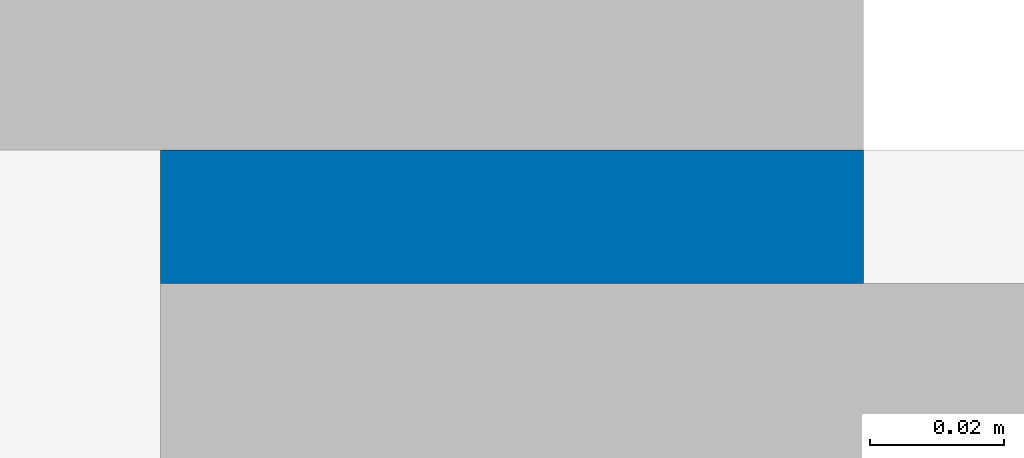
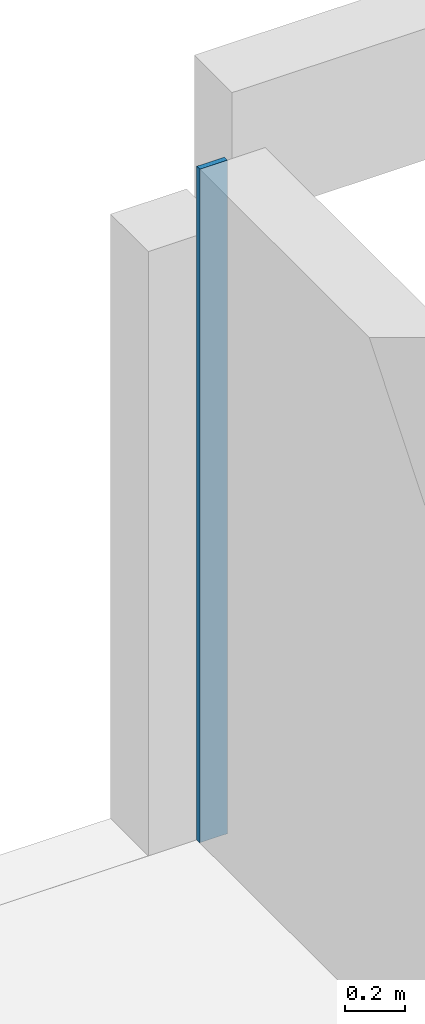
# One storey, part 6 of 12: 1 wall.
"""IFC2X3 building model written with IfcOpenShell, lengths in millimetres."""

from ifc_helpers import new_model, entity, si_unit, converted_unit, derived_unit, direction, frame, frame_2d, origin, place, context, subcontext, project, spatial, rectangle, extrude, material, layer, layer_set, layer_usage, type_object, element, save


model = new_model("IFC2X3")

# Units and contexts
model_context = context("Model", 3, precision=0.01, world=origin(), true_north=direction((6.12303176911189e-17, 1.0)))
body_context = subcontext(model_context, "Body", "Model", "MODEL_VIEW")
ifc_project = project(units=[si_unit("LENGTHUNIT", "METRE", prefix="MILLI"), si_unit("AREAUNIT", "SQUARE_METRE"), si_unit("VOLUMEUNIT", "CUBIC_METRE"), converted_unit("PLANEANGLEUNIT", "DEGREE", entity("IfcRatioMeasure", 0.0174532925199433), si_unit("PLANEANGLEUNIT", "RADIAN"), dimensions=[0, 0, 0, 0, 0, 0, 0]), si_unit("MASSUNIT", "GRAM", prefix="KILO"), derived_unit("MASSDENSITYUNIT", [(si_unit("MASSUNIT", "GRAM", prefix="KILO"), 1), (si_unit("LENGTHUNIT", "METRE"), -3)]), si_unit("TIMEUNIT", "SECOND"), si_unit("FREQUENCYUNIT", "HERTZ"), si_unit("THERMODYNAMICTEMPERATUREUNIT", "DEGREE_CELSIUS"), derived_unit("THERMALTRANSMITTANCEUNIT", [(si_unit("MASSUNIT", "GRAM", prefix="KILO"), 1), (si_unit("THERMODYNAMICTEMPERATUREUNIT", "KELVIN"), -1), (si_unit("TIMEUNIT", "SECOND"), -3)]), derived_unit("VOLUMETRICFLOWRATEUNIT", [(si_unit("LENGTHUNIT", "METRE"), 3), (si_unit("TIMEUNIT", "SECOND"), -1)]), si_unit("ELECTRICCURRENTUNIT", "AMPERE"), si_unit("ELECTRICVOLTAGEUNIT", "VOLT"), si_unit("POWERUNIT", "WATT"), si_unit("FORCEUNIT", "NEWTON", prefix="KILO"), si_unit("ILLUMINANCEUNIT", "LUX"), si_unit("LUMINOUSFLUXUNIT", "LUMEN"), si_unit("LUMINOUSINTENSITYUNIT", "CANDELA"), derived_unit("USERDEFINED", [(si_unit("MASSUNIT", "GRAM", prefix="KILO"), -1), (si_unit("LENGTHUNIT", "METRE"), -2), (si_unit("TIMEUNIT", "SECOND"), 3), (si_unit("LUMINOUSFLUXUNIT", "LUMEN"), 1)]), derived_unit("LINEARVELOCITYUNIT", [(si_unit("LENGTHUNIT", "METRE"), 1), (si_unit("TIMEUNIT", "SECOND"), -1)]), si_unit("PRESSUREUNIT", "PASCAL"), derived_unit("USERDEFINED", [(si_unit("LENGTHUNIT", "METRE"), -2), (si_unit("MASSUNIT", "GRAM", prefix="KILO"), 1), (si_unit("TIMEUNIT", "SECOND"), -2)])], contexts=[model_context])

# Site, building, storey
site_placement = place(None, origin())
site = spatial("IfcSite", under=ifc_project, at=site_placement, Name="Default", CompositionType="ELEMENT")
building_placement = place(site_placement, origin())
building = spatial("IfcBuilding", under=site, at=building_placement, Name="niet gebruiken", CompositionType="ELEMENT")
storey_placement = place(building_placement, frame((0.0, 0.0, 6660.0)))
storey = spatial("IfcBuildingStorey", under=building, at=storey_placement, Name="02 tweede verdieping", CompositionType="ELEMENT", Elevation=6660.00000000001)

# Wall
ifc_material = material(Name="NLRS_f2_beton ihwg")
ifc_layer = layer(ifc_material, 105.0)
ifc_layer_set = layer_set([ifc_layer], Name="Basic Wall:NLRS_22.21_WA_beton ihwg d=105_gen")
ifc_layer_usage = layer_usage(ifc_layer_set, "AXIS2", "NEGATIVE", 52.5)
wall_type = type_object("IfcWallType", Name="Basic Wall:NLRS_22.21_WA_beton ihwg d=105_gen", PredefinedType="STANDARD", material=ifc_layer_set)
wall_placement = place(storey_placement, frame((59327.4999999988, 52986.0, -90.0), z_axis=(0.0, 0.0, 1.0), x_axis=(0.0, 1.0, 0.0)))
element("IfcWallStandardCase", 1, at=wall_placement, inside=storey, type_object=wall_type, material=ifc_layer_usage, Name="Basic Wall:NLRS_22.21_WA_beton ihwg d=105_gen", ObjectType="Basic Wall:NLRS_22.21_WA_beton ihwg d=105_gen", context=body_context, shape_type="SweptSolid", body=[
    extrude(rectangle(XDim=20.0000000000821, YDim=104.999999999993, at=frame_2d((10.000000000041, 1.77635683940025e-14), x_axis=(-1.0, 0.0))), origin(), (0.0, 0.0, 1.0), 2720.00000000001),
])

save(model, "model.ifc")
